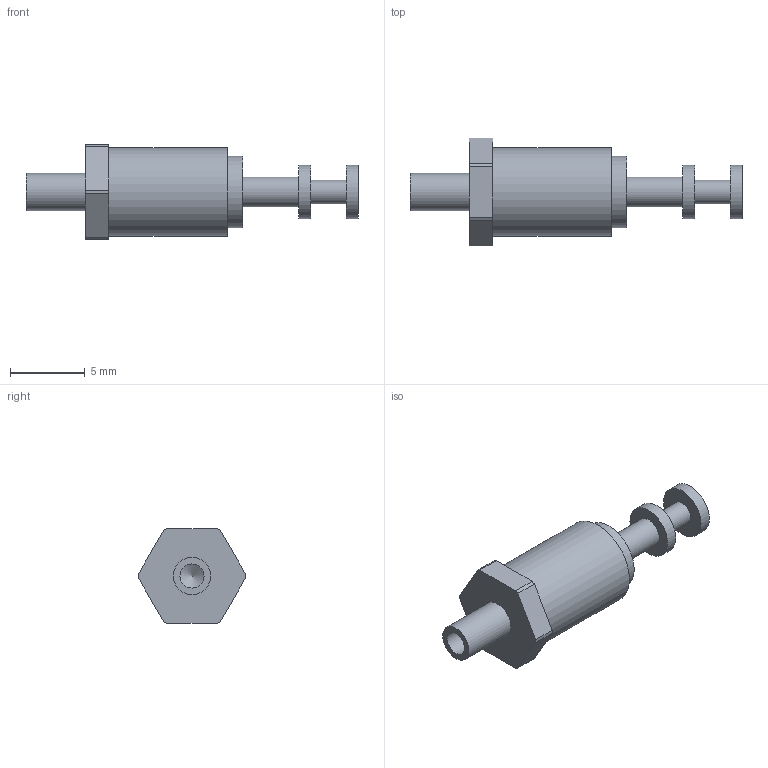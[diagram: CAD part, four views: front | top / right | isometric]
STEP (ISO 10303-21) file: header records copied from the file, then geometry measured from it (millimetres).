
FILE_DESCRIPTION(/* description */ (''),/* implementation_level */ '2;1');
FILE_NAME(/* name */ '\\Snap1\dwgs\Customer 3D Models\572\572-4812-03 Customer model.stp',/* time_stamp */ '2017-01-10T12:34:55+00:00',/* author */ ('paulk'),/* organization */ (''),/* preprocessor_version */ 'ST-DEVELOPER v15.2',/* originating_system */ 'Autodesk Inventor 2014',/* authorisation */ '');
FILE_SCHEMA (('CONFIG_CONTROL_DESIGN'));
Length unit declared in the file: millimetre
Products named in the file (1): 572-4812-03 Customer model
Bounding box: 22.22 x 7.2 x 6.35 mm (x, y, z)
Volume: 337.1 mm3; surface area: 389.3 mm2
Topology: 1 solids, 1 shells, 30 faces, 62 edges, 41 vertices
Faces by surface type: plane 15, cylinder 14, cone 1
Full cylindrical faces by diameter (mm): 1.575 x1, 1.613 x1, 1.981 x1, 2.489 x1, 3.556 x2, 4.775 x1, 5.893 x1
Entity records: 831 total; most frequent: DIRECTION 142, CARTESIAN_POINT 123, ORIENTED_EDGE 104, AXIS2_PLACEMENT_3D 59, EDGE_CURVE 52, EDGE_LOOP 46, VERTEX_POINT 40, STYLED_ITEM 31
